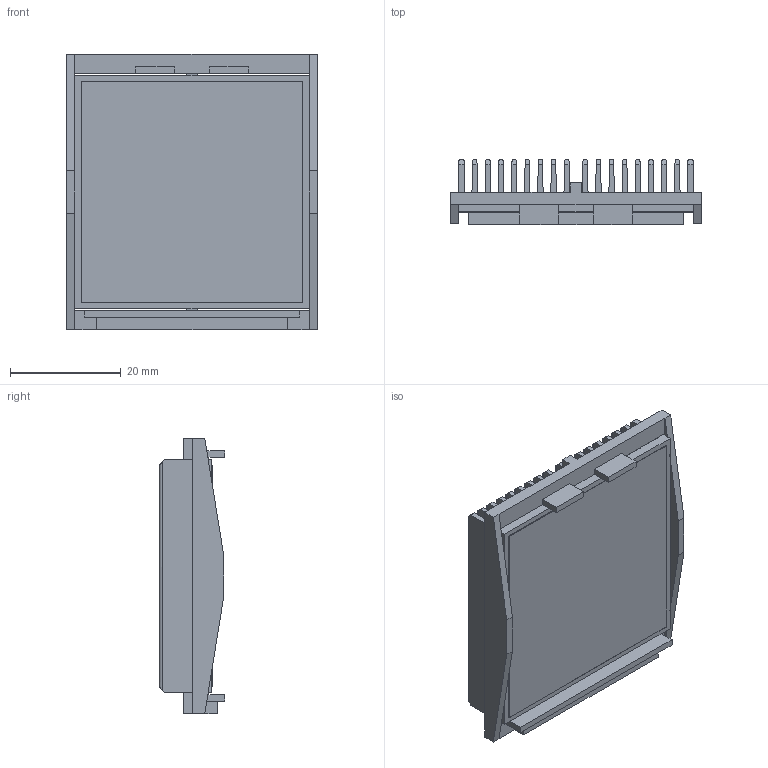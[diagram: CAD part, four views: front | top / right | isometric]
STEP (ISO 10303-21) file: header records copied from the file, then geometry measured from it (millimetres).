
FILE_DESCRIPTION (( 'STEP AP214' ), '1' );
FILE_NAME ('INL42.5001-10-1.7Y.STEP', '2023-03-01T18:25:31', ( '' ), ( '' ), 'SwSTEP 2.0', 'SolidWorks 2020', '' );
FILE_SCHEMA (( 'AUTOMOTIVE_DESIGN' ));
Length unit declared in the file: millimetre
Products named in the file (1): INL42.5001-10-1.7Y
Bounding box: 45.2 x 11.8 x 49.6 mm (x, y, z)
Volume: 10393 mm3; surface area: 21347 mm2
Topology: 3 solids, 3 shells, 198 faces, 578 edges, 384 vertices
Faces by surface type: plane 146, cylinder 52
Entity records: 8712 total; most frequent: CARTESIAN_POINT 1269, ORIENTED_EDGE 1156, DIRECTION 1008, EDGE_CURVE 578, LINE 474, VECTOR 474, VERTEX_POINT 384, AXIS2_PLACEMENT_3D 267
